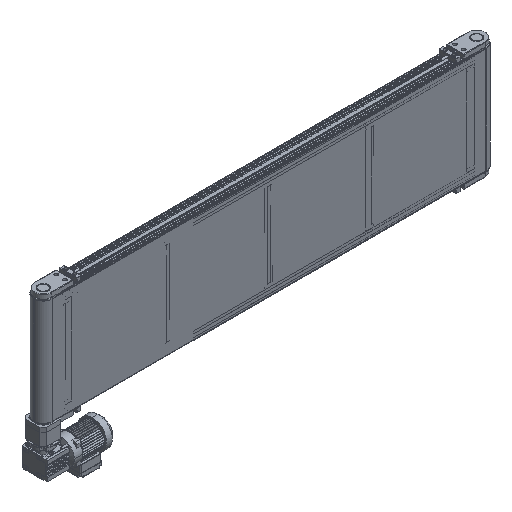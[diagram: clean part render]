
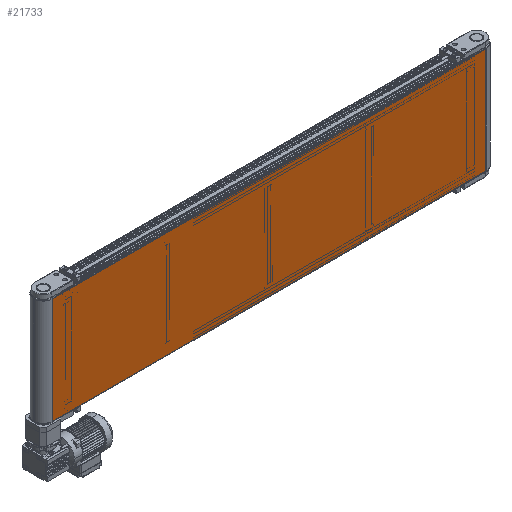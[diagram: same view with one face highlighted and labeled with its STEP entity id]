
A CAD part, isometric view. The second image highlights one B-rep face of the part: STEP entity #21733.
In plain terms, the highlighted planar face has unit normal (0, -1, 0).
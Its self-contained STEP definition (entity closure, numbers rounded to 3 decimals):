
#21733=ADVANCED_FACE('',(#44871),#44872,.F.);
#44871=FACE_OUTER_BOUND('',#56527,.T.);
#44872=PLANE('',#56528);
#56527=EDGE_LOOP('',(#85878,#85879,#85880,#85881));
#56528=AXIS2_PLACEMENT_3D('',#85882,#85883,#85884);
#85878=ORIENTED_EDGE('',*,*,#107516,.F.);
#85879=ORIENTED_EDGE('',*,*,#107517,.F.);
#85880=ORIENTED_EDGE('',*,*,#107511,.F.);
#85881=ORIENTED_EDGE('',*,*,#107513,.F.);
#85882=CARTESIAN_POINT('',(950.0,-23.5,-230.0));
#85883=DIRECTION('',(0.0,1.0,0.0));
#85884=DIRECTION('',(0.0,0.0,1.0));
#107511=EDGE_CURVE('',#126497,#126499,#126500,.T.);
#107513=EDGE_CURVE('',#126502,#126497,#126503,.T.);
#107516=EDGE_CURVE('',#126506,#126502,#126507,.T.);
#107517=EDGE_CURVE('',#126499,#126506,#126508,.T.);
#126497=VERTEX_POINT('',#140735);
#126499=VERTEX_POINT('',#140737);
#126500=LINE('',#140738,#140739);
#126502=VERTEX_POINT('',#140741);
#126503=LINE('',#140742,#140743);
#126506=VERTEX_POINT('',#140747);
#126507=LINE('',#140748,#140749);
#126508=LINE('',#140750,#140751);
#140735=CARTESIAN_POINT('',(1950.0,-23.5,15.0));
#140737=CARTESIAN_POINT('',(1950.0,-23.5,-475.0));
#140738=CARTESIAN_POINT('',(1950.0,-23.5,-230.0));
#140739=VECTOR('',#151126,1.0);
#140741=CARTESIAN_POINT('',(-50.0,-23.5,15.0));
#140742=CARTESIAN_POINT('',(950.0,-23.5,15.0));
#140743=VECTOR('',#151130,1.0);
#140747=CARTESIAN_POINT('',(-50.0,-23.5,-475.0));
#140748=CARTESIAN_POINT('',(-50.0,-23.5,-230.0));
#140749=VECTOR('',#151135,1.0);
#140750=CARTESIAN_POINT('',(950.0,-23.5,-475.0));
#140751=VECTOR('',#151136,1.0);
#151126=DIRECTION('',(0.0,0.0,-1.0));
#151130=DIRECTION('',(1.0,0.0,0.0));
#151135=DIRECTION('',(0.0,0.0,1.0));
#151136=DIRECTION('',(-1.0,0.0,0.0));
